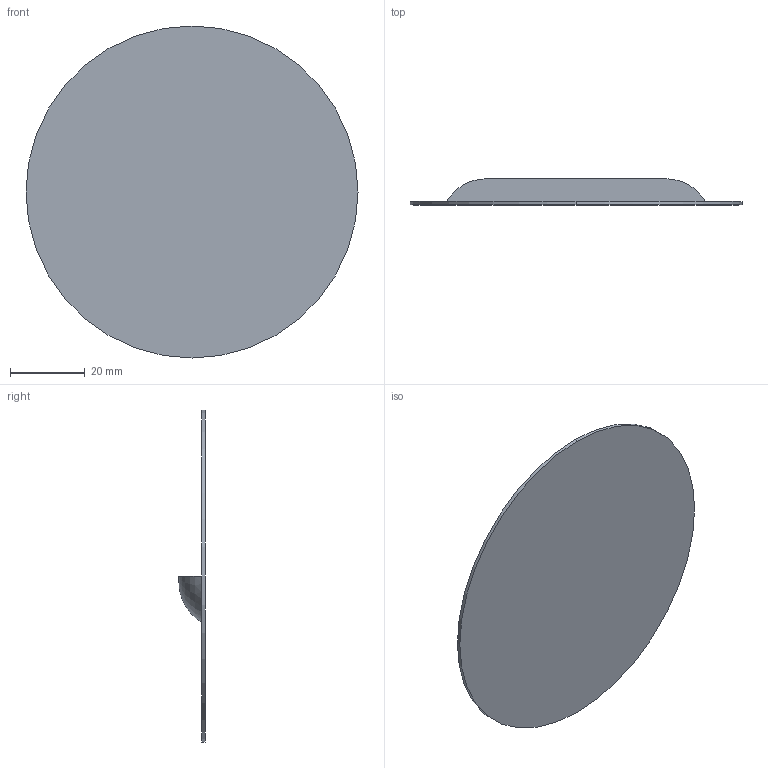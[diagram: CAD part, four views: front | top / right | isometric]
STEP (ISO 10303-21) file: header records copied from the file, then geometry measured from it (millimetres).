
FILE_DESCRIPTION (( 'STEP AP203' ), '1' );
FILE_NAME ('L12 770823-10 - LOUVER, SINGLE HIT 2.732 .036 SST.STEP', '2025-01-28T13:53:02', ( '' ), ( '' ), 'SwSTEP 2.0', 'SolidWorks 2024', '' );
FILE_SCHEMA (( 'CONFIG_CONTROL_DESIGN' ));
Length unit declared in the file: inch
Products named in the file (1): L12 770823-10 - LOUVER, SINGLE HIT 2.732 .036 SST
Bounding box: 88.9 x 7.01 x 88.9 mm (x, y, z)
Volume: 9086.1 mm3; surface area: 13222.6 mm2
Topology: 1 solids, 1 shells, 9 faces, 18 edges, 12 vertices
Faces by surface type: plane 4, cylinder 3, torus 2
Entity records: 323 total; most frequent: DIRECTION 50, CARTESIAN_POINT 40, ORIENTED_EDGE 36, AXIS2_PLACEMENT_3D 22, EDGE_CURVE 18, VERTEX_POINT 12, CIRCLE 12, EDGE_LOOP 10
